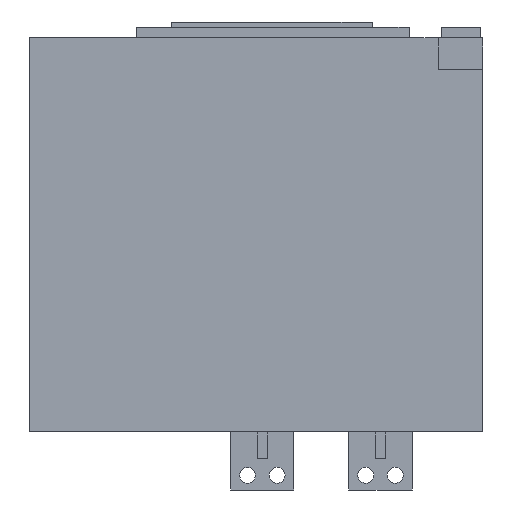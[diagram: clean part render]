
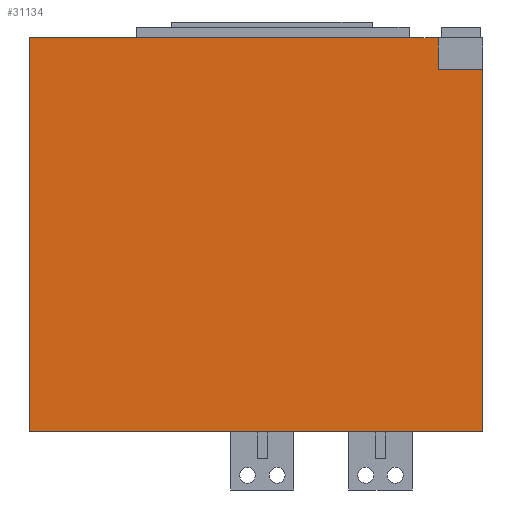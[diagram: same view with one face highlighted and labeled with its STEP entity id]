
A CAD part, left-side view. The second image highlights one B-rep face of the part: STEP entity #31134.
In plain terms, the highlighted planar face has unit normal (-1, 0, 0).
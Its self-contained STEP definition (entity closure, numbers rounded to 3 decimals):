
#196 = CARTESIAN_POINT ( 'NONE',  ( -262.5, 42.5, -30. ) ) ;
#860 = EDGE_CURVE ( 'NONE', #25954, #17572, #23779, .T. ) ;
#2397 = VECTOR ( 'NONE', #23910, 1000. ) ;
#2663 = VERTEX_POINT ( 'NONE', #20303 ) ;
#3088 = CARTESIAN_POINT ( 'NONE',  ( -262.5, 430., -373.5 ) ) ;
#5815 = CARTESIAN_POINT ( 'NONE',  ( -262.5, 430.001, -30. ) ) ;
#7059 = LINE ( 'NONE', #32633, #30450 ) ;
#7433 = PLANE ( 'NONE',  #37826 ) ;
#9265 = CARTESIAN_POINT ( 'NONE',  ( -262.5, 42.5, 0. ) ) ;
#11514 = DIRECTION ( 'NONE',  ( 0., -1., 0. ) ) ;
#12036 = VECTOR ( 'NONE', #11514, 1000. ) ;
#14567 = CARTESIAN_POINT ( 'NONE',  ( -262.5, 0., 0. ) ) ;
#15043 = EDGE_CURVE ( 'NONE', #16220, #19705, #31763, .T. ) ;
#15613 = VECTOR ( 'NONE', #35376, 1000. ) ;
#16220 = VERTEX_POINT ( 'NONE', #196 ) ;
#16630 = VERTEX_POINT ( 'NONE', #24593 ) ;
#17572 = VERTEX_POINT ( 'NONE', #25423 ) ;
#17688 = LINE ( 'NONE', #35751, #2397 ) ;
#19705 = VERTEX_POINT ( 'NONE', #9265 ) ;
#19768 = DIRECTION ( 'NONE',  ( 0., -1., 0. ) ) ;
#20303 = CARTESIAN_POINT ( 'NONE',  ( -262.5, 0., -30. ) ) ;
#20453 = CARTESIAN_POINT ( 'NONE',  ( -262.5, 42.5, -373.5 ) ) ;
#20759 = DIRECTION ( 'NONE',  ( 0., 0., 1. ) ) ;
#20926 = DIRECTION ( 'NONE',  ( 0., -1., 0. ) ) ;
#21730 = EDGE_CURVE ( 'NONE', #16220, #2663, #31989, .T. ) ;
#23779 = LINE ( 'NONE', #35463, #15613 ) ;
#23910 = DIRECTION ( 'NONE',  ( 0., 0., 1. ) ) ;
#23980 = VECTOR ( 'NONE', #20926, 1000. ) ;
#24593 = CARTESIAN_POINT ( 'NONE',  ( -262.5, 430., 0. ) ) ;
#24702 = VECTOR ( 'NONE', #26687, 1000. ) ;
#25423 = CARTESIAN_POINT ( 'NONE',  ( -262.5, 0., -373.5 ) ) ;
#25954 = VERTEX_POINT ( 'NONE', #3088 ) ;
#26582 = ORIENTED_EDGE ( 'NONE', *, *, #860, .T. ) ;
#26687 = DIRECTION ( 'NONE',  ( 0., 0., 1. ) ) ;
#26889 = EDGE_LOOP ( 'NONE', ( #36813, #35931, #26582, #31388, #27251, #28461 ) ) ;
#27251 = ORIENTED_EDGE ( 'NONE', *, *, #21730, .F. ) ;
#28263 = LINE ( 'NONE', #14567, #12036 ) ;
#28461 = ORIENTED_EDGE ( 'NONE', *, *, #15043, .T. ) ;
#28768 = CARTESIAN_POINT ( 'NONE',  ( -262.5, 0., -373.5 ) ) ;
#30450 = VECTOR ( 'NONE', #20759, 1000. ) ;
#31134 = ADVANCED_FACE ( 'NONE', ( #31492 ), #7433, .T. ) ;
#31388 = ORIENTED_EDGE ( 'NONE', *, *, #34303, .T. ) ;
#31492 = FACE_OUTER_BOUND ( 'NONE', #26889, .T. ) ;
#31763 = LINE ( 'NONE', #20453, #24702 ) ;
#31989 = LINE ( 'NONE', #5815, #23980 ) ;
#32633 = CARTESIAN_POINT ( 'NONE',  ( -262.5, 0., -373.5 ) ) ;
#34303 = EDGE_CURVE ( 'NONE', #17572, #2663, #7059, .T. ) ;
#35376 = DIRECTION ( 'NONE',  ( 0., -1., 0. ) ) ;
#35463 = CARTESIAN_POINT ( 'NONE',  ( -262.5, 0., -373.5 ) ) ;
#35751 = CARTESIAN_POINT ( 'NONE',  ( -262.5, 430., -373.5 ) ) ;
#35931 = ORIENTED_EDGE ( 'NONE', *, *, #38917, .F. ) ;
#36813 = ORIENTED_EDGE ( 'NONE', *, *, #36822, .F. ) ;
#36822 = EDGE_CURVE ( 'NONE', #16630, #19705, #28263, .T. ) ;
#37786 = DIRECTION ( 'NONE',  ( -1., 0., 0. ) ) ;
#37826 = AXIS2_PLACEMENT_3D ( 'NONE', #28768, #37786, #19768 ) ;
#38917 = EDGE_CURVE ( 'NONE', #25954, #16630, #17688, .T. ) ;
